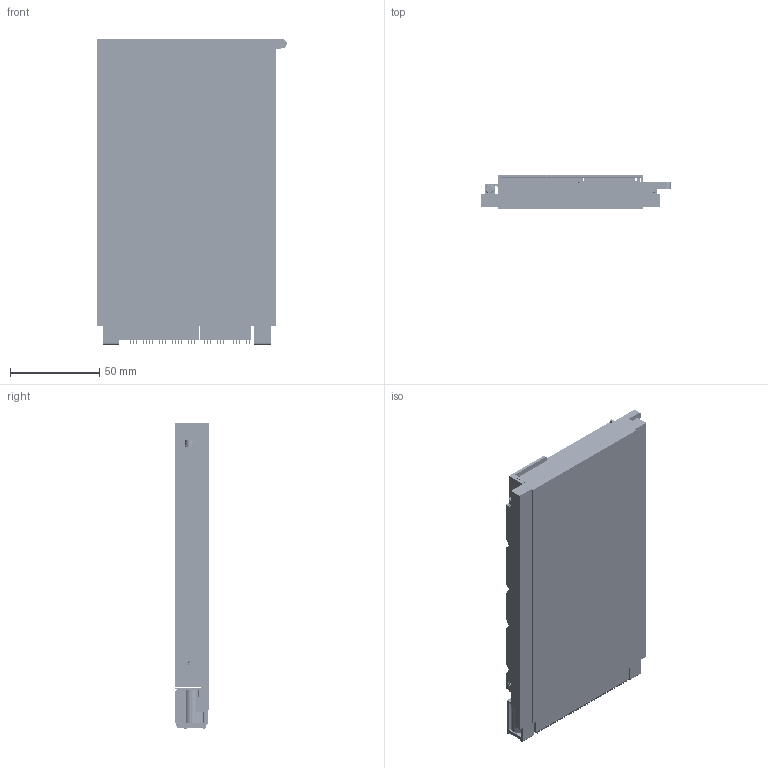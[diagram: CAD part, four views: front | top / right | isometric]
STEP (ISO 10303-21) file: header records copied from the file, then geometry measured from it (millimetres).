
FILE_DESCRIPTION (( 'STEP AP203' ), '1' );
FILE_NAME ('3U-VPX48.2-PS-265HC-51640.step', '2018-06-15T21:02:07', ( '' ), ( '' ), 'SwSTEP 2.0', 'SolidWorks 2014', '' );
FILE_SCHEMA (( 'CONFIG_CONTROL_DESIGN' ));
Products named in the file (1): 3U-VPX48.2-PS-265HC-51640
Bounding box: 105.88 x 19.27 x 170.75 mm (x, y, z)
Volume: 257195.5 mm3; surface area: 218656.9 mm2
Topology: 299 solids, 299 shells, 21590 faces, 60653 edges, 39328 vertices
Faces by surface type: plane 17792, cylinder 2646, bspline 998, cone 154
Entity records: 736906 total; most frequent: CARTESIAN_POINT 189038, ORIENTED_EDGE 117650, DIRECTION 104393, EDGE_CURVE 58825, VECTOR 50903, LINE 50903, VERTEX_POINT 39328, AXIS2_PLACEMENT_3D 26745
